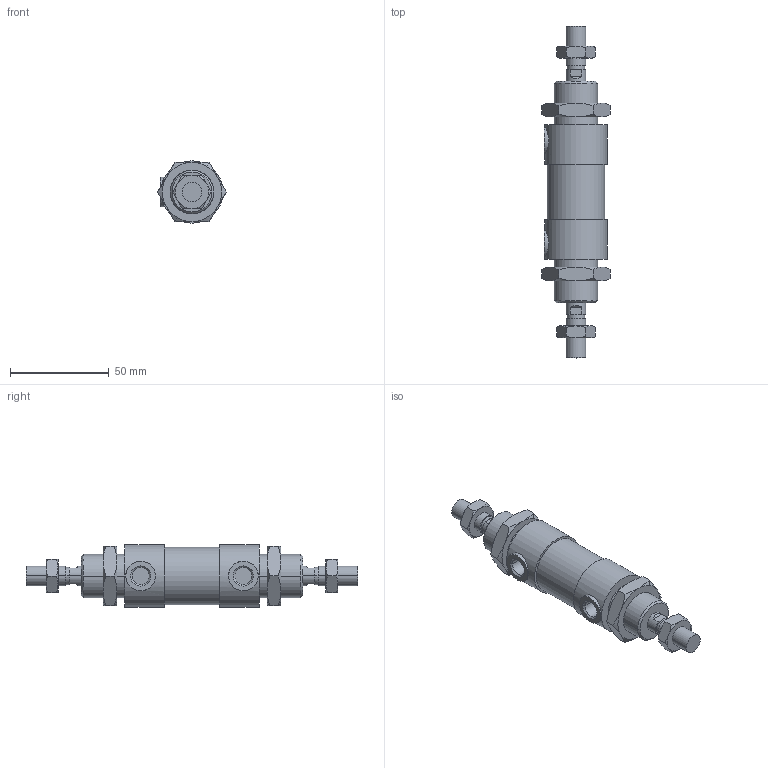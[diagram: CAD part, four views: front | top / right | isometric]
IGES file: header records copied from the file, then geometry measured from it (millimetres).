
Global section: file name: No Iges File Name specified; native system: AutoDesk Inventor R10; preprocessor: AutoDesk Inventor Iges Exporter R10; author: No Author specified; organization: No Organization specified; date: 20060105.143543; units: millimetre
Bounding box: 34.64 x 168 x 31.5 mm (x, y, z)
Volume: 78014.4 mm3; surface area: 26326.9 mm2
Topology: 6 solids, 6 shells, 185 faces, 397 edges, 232 vertices
Faces by surface type: cone 68, plane 62, cylinder 21, bspline 20, revolution 14
Full cylindrical faces by diameter (mm): 29 x1, 31.5 x2
